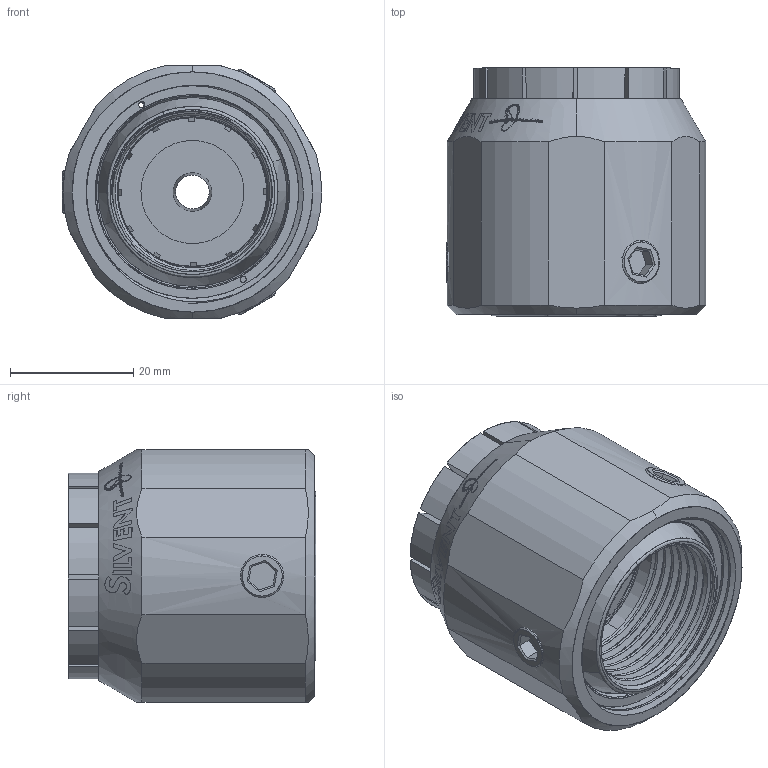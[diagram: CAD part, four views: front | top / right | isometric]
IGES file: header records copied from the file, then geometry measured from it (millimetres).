
Start section: SolidWorks IGES file using analytic representation for surfaces
Global section: file name: P:\SILVENT AB\ENGINEERING\Drawings\ÖVRIGT\IGES\Silvent 710 L TA.IGS; native system: SolidWorks 2016; preprocessor: SolidWorks 2016; author: p.svensson; date: 160412.162620; units: millimetre
Bounding box: 42.15 x 40.23 x 41 mm (x, y, z)
Surface area: 17819.1 mm2 (no closed solid volume)
Topology: 0 solids, 0 shells, 289 faces, 6381 edges, 6381 vertices
Faces by surface type: bspline 179, revolution 110
